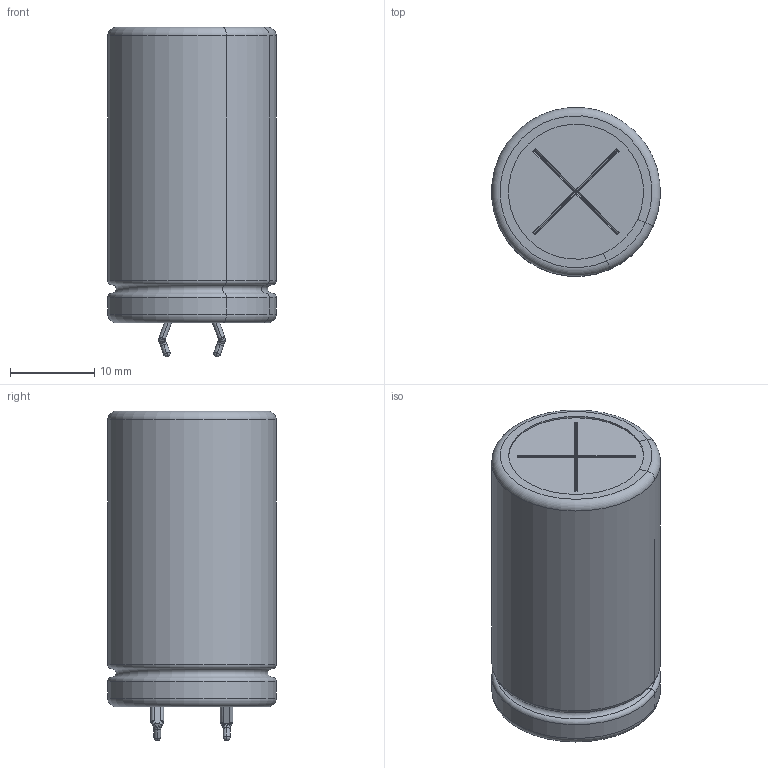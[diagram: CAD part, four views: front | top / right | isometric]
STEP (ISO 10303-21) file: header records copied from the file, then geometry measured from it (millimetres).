
FILE_DESCRIPTION(/* description */ (''),/* implementation_level */ '2;1');
FILE_NAME(/* name */ '20x35_Snap.stp',/* time_stamp */ '2017-09-11T13:48:04+09:00',/* author */ (''),/* organization */ (''),/* preprocessor_version */ 'ST-DEVELOPER v16',/* originating_system */ 'SIEMENS PLM Software NX 11.0',/* authorisation */ '');
FILE_SCHEMA (('AUTOMOTIVE_DESIGN { 1 0 10303 214 3 1 1 1 }'));
Length unit declared in the file: millimetre
Products named in the file (1): 20x35_Snap_0
Bounding box: 19.94 x 19.94 x 39.02 mm (x, y, z)
Volume: 10839.8 mm3; surface area: 7758.6 mm2
Topology: 5 solids, 5 shells, 208 faces, 523 edges, 310 vertices
Faces by surface type: cylinder 76, plane 75, torus 25, sphere 20, bspline 12
Full cylindrical faces by diameter (mm): 4 x2, 19.6 x2
Entity records: 6789 total; most frequent: CARTESIAN_POINT 1265, DIRECTION 1128, ORIENTED_EDGE 988, EDGE_CURVE 494, AXIS2_PLACEMENT_3D 437, VERTEX_POINT 310, LINE 254, VECTOR 254
